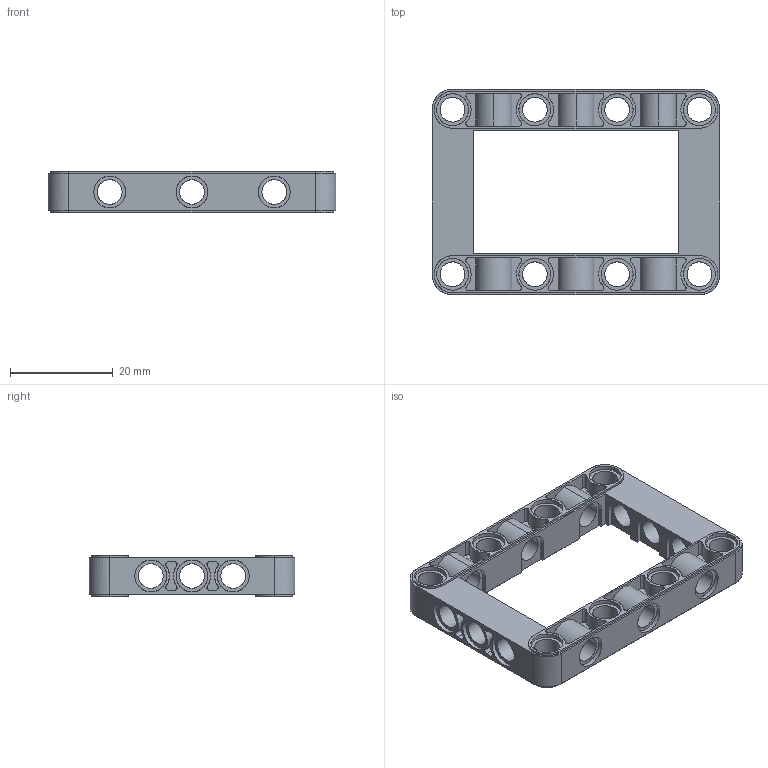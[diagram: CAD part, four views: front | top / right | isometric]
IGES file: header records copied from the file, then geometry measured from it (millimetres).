
Start section: C
Global section: file name: ClGray_4539880_AVV.iges; native system: By Siemens PLM Incorporated; preprocessor: XPlus GENERIC/IGES 26.1.183; author: Author; organization: Title; date: 20250721.235620; units: millimetre
Bounding box: 56 x 40 x 8 mm (x, y, z)
Surface area: 7996.1 mm2 (no closed solid volume)
Topology: 0 solids, 0 shells, 394 faces, 2268 edges, 2268 vertices
Faces by surface type: bspline 394
